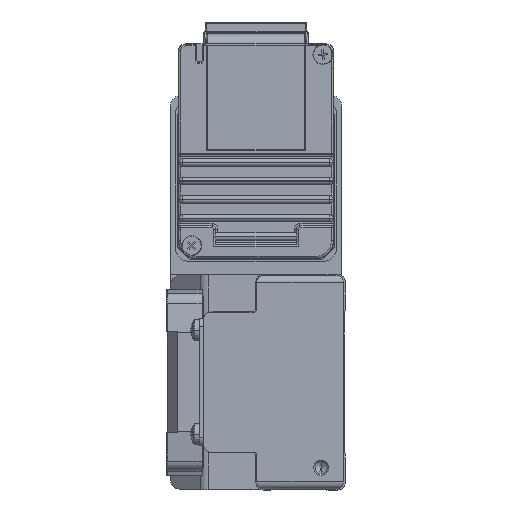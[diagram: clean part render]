
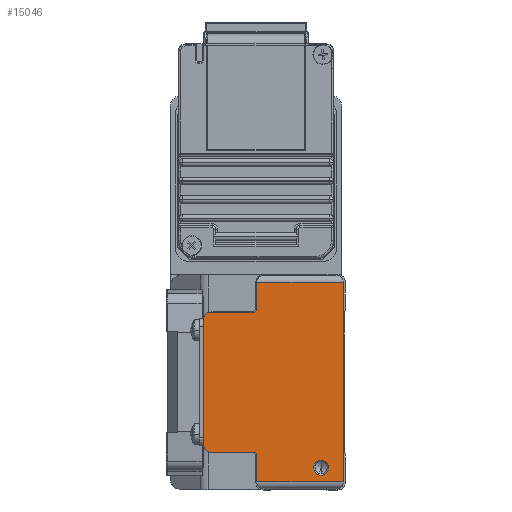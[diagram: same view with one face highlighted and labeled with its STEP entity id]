
A CAD part, left-side view. The second image highlights one B-rep face of the part: STEP entity #15046.
In plain terms, the highlighted planar face has unit normal (-1, 0, 0) as drawn and (0, 0, 1) by its records, which use the part's own axes.
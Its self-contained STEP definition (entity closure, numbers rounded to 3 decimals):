
#479 = CARTESIAN_POINT ( 'NONE',  ( 26.8, 23.8, 820. ) ) ;
#572 = PLANE ( 'NONE',  #1378 ) ;
#880 = VERTEX_POINT ( 'NONE', #26918 ) ;
#899 = VERTEX_POINT ( 'NONE', #5047 ) ;
#975 = LINE ( 'NONE', #29095, #3034 ) ;
#1378 = AXIS2_PLACEMENT_3D ( 'NONE', #42898, #14664, #11190 ) ;
#1431 = CARTESIAN_POINT ( 'NONE',  ( -26.8, 23.8, 820. ) ) ;
#1488 = EDGE_CURVE ( 'NONE', #34833, #9883, #6722, .T. ) ;
#1514 = CARTESIAN_POINT ( 'NONE',  ( 19.8, 24.8, 820. ) ) ;
#2152 = CARTESIAN_POINT ( 'NONE',  ( 26.8, 23.8, 820. ) ) ;
#2526 = ORIENTED_EDGE ( 'NONE', *, *, #42933, .T. ) ;
#2690 = ORIENTED_EDGE ( 'NONE', *, *, #22143, .T. ) ;
#2776 = CARTESIAN_POINT ( 'NONE',  ( 17.3, 36.5, 820. ) ) ;
#3034 = VECTOR ( 'NONE', #35863, 1000. ) ;
#3552 = DIRECTION ( 'NONE',  ( 0., -1., 0. ) ) ;
#3651 = VECTOR ( 'NONE', #26562, 1000. ) ;
#3926 = CARTESIAN_POINT ( 'NONE',  ( -19.8, 24.8, 820. ) ) ;
#5047 = CARTESIAN_POINT ( 'NONE',  ( 17.3, 38., 820. ) ) ;
#5266 = AXIS2_PLACEMENT_3D ( 'NONE', #11368, #42865, #39371 ) ;
#5529 = ORIENTED_EDGE ( 'NONE', *, *, #1488, .T. ) ;
#6644 = CARTESIAN_POINT ( 'NONE',  ( 19.8, 23.8, 820. ) ) ;
#6722 = CIRCLE ( 'NONE', #5266, 2. ) ;
#6762 = ORIENTED_EDGE ( 'NONE', *, *, #26782, .T. ) ;
#8785 = VERTEX_POINT ( 'NONE', #42233 ) ;
#9000 = EDGE_CURVE ( 'NONE', #13240, #19870, #36776, .T. ) ;
#9042 = LINE ( 'NONE', #2152, #3651 ) ;
#9686 = CARTESIAN_POINT ( 'NONE',  ( -23., 6.5, 820. ) ) ;
#9883 = VERTEX_POINT ( 'NONE', #19560 ) ;
#10829 = ORIENTED_EDGE ( 'NONE', *, *, #30544, .T. ) ;
#11190 = DIRECTION ( 'NONE',  ( 1., 0., 0. ) ) ;
#11368 = CARTESIAN_POINT ( 'NONE',  ( -23., 6.5, 820. ) ) ;
#11914 = DIRECTION ( 'NONE',  ( 0., 0., 1. ) ) ;
#12047 = ORIENTED_EDGE ( 'NONE', *, *, #27651, .T. ) ;
#12619 = LINE ( 'NONE', #19534, #38844 ) ;
#13240 = VERTEX_POINT ( 'NONE', #23935 ) ;
#13964 = FACE_OUTER_BOUND ( 'NONE', #35412, .T. ) ;
#14278 = CARTESIAN_POINT ( 'NONE',  ( -17.3, 38., 820. ) ) ;
#14366 = ORIENTED_EDGE ( 'NONE', *, *, #14828, .F. ) ;
#14450 = CARTESIAN_POINT ( 'NONE',  ( -18.8, 24.8, 820. ) ) ;
#14664 = DIRECTION ( 'NONE',  ( 0., 0., 1. ) ) ;
#14828 = EDGE_CURVE ( 'NONE', #35428, #23759, #45328, .T. ) ;
#15046 = ADVANCED_FACE ( 'NONE', ( #42674, #13964 ), #572, .T. ) ;
#15732 = DIRECTION ( 'NONE',  ( 0., 0., -1. ) ) ;
#15902 = LINE ( 'NONE', #26925, #36346 ) ;
#16038 = AXIS2_PLACEMENT_3D ( 'NONE', #9686, #15732, #37040 ) ;
#17294 = CARTESIAN_POINT ( 'NONE',  ( 26.8, 24., 820. ) ) ;
#18010 = DIRECTION ( 'NONE',  ( 0., 0., 1. ) ) ;
#18396 = VERTEX_POINT ( 'NONE', #25651 ) ;
#19194 = CARTESIAN_POINT ( 'NONE',  ( -18.8, 36.5, 820. ) ) ;
#19339 = VERTEX_POINT ( 'NONE', #6644 ) ;
#19534 = CARTESIAN_POINT ( 'NONE',  ( 17.3, 38., 820. ) ) ;
#19537 = VERTEX_POINT ( 'NONE', #14278 ) ;
#19560 = CARTESIAN_POINT ( 'NONE',  ( -25., 6.5, 820. ) ) ;
#19585 = AXIS2_PLACEMENT_3D ( 'NONE', #23188, #30552, #41050 ) ;
#19741 = CARTESIAN_POINT ( 'NONE',  ( 18.8, 24.8, 820. ) ) ;
#19870 = VERTEX_POINT ( 'NONE', #14450 ) ;
#20088 = CARTESIAN_POINT ( 'NONE',  ( -21., 6.5, 820. ) ) ;
#20140 = VECTOR ( 'NONE', #29761, 1000. ) ;
#21753 = EDGE_CURVE ( 'NONE', #35428, #19339, #9042, .T. ) ;
#22143 = EDGE_CURVE ( 'NONE', #899, #19537, #12619, .T. ) ;
#22296 = ORIENTED_EDGE ( 'NONE', *, *, #42635, .T. ) ;
#23132 = CIRCLE ( 'NONE', #24592, 1.5 ) ;
#23188 = CARTESIAN_POINT ( 'NONE',  ( -17.3, 36.5, 820. ) ) ;
#23759 = VERTEX_POINT ( 'NONE', #33051 ) ;
#23935 = CARTESIAN_POINT ( 'NONE',  ( -18.8, 36.5, 820. ) ) ;
#24420 = DIRECTION ( 'NONE',  ( 0., -1., 0. ) ) ;
#24592 = AXIS2_PLACEMENT_3D ( 'NONE', #2776, #35759, #35995 ) ;
#24809 = AXIS2_PLACEMENT_3D ( 'NONE', #1514, #11914, #25936 ) ;
#25651 = CARTESIAN_POINT ( 'NONE',  ( -26.8, 0.5, 820. ) ) ;
#25936 = DIRECTION ( 'NONE',  ( 1., 0., 0. ) ) ;
#26562 = DIRECTION ( 'NONE',  ( -1., 0., 0. ) ) ;
#26718 = DIRECTION ( 'NONE',  ( 0., 1., 0. ) ) ;
#26782 = EDGE_CURVE ( 'NONE', #880, #36842, #15902, .T. ) ;
#26909 = DIRECTION ( 'NONE',  ( 1., 0., 0. ) ) ;
#26918 = CARTESIAN_POINT ( 'NONE',  ( -19.8, 23.8, 820. ) ) ;
#26925 = CARTESIAN_POINT ( 'NONE',  ( -19.8, 23.8, 820. ) ) ;
#27630 = LINE ( 'NONE', #34675, #45503 ) ;
#27651 = EDGE_CURVE ( 'NONE', #8785, #899, #23132, .T. ) ;
#28188 = ORIENTED_EDGE ( 'NONE', *, *, #21753, .T. ) ;
#29095 = CARTESIAN_POINT ( 'NONE',  ( -26.8, 0.5, 820. ) ) ;
#29761 = DIRECTION ( 'NONE',  ( 0., -1., 0. ) ) ;
#30544 = EDGE_CURVE ( 'NONE', #9883, #34833, #41188, .T. ) ;
#30552 = DIRECTION ( 'NONE',  ( 0., 0., 1. ) ) ;
#32468 = ORIENTED_EDGE ( 'NONE', *, *, #36828, .T. ) ;
#33051 = CARTESIAN_POINT ( 'NONE',  ( 26.8, 0.5, 820. ) ) ;
#33086 = VECTOR ( 'NONE', #3552, 1000. ) ;
#33711 = CIRCLE ( 'NONE', #24809, 1. ) ;
#34556 = AXIS2_PLACEMENT_3D ( 'NONE', #3926, #18010, #26909 ) ;
#34675 = CARTESIAN_POINT ( 'NONE',  ( 18.8, 24.8, 820. ) ) ;
#34833 = VERTEX_POINT ( 'NONE', #20088 ) ;
#35267 = EDGE_CURVE ( 'NONE', #36842, #18396, #42671, .T. ) ;
#35412 = EDGE_LOOP ( 'NONE', ( #43368, #40808, #6762, #41863, #32468, #14366, #28188, #37075, #2526, #12047, #2690, #22296 ) ) ;
#35428 = VERTEX_POINT ( 'NONE', #479 ) ;
#35759 = DIRECTION ( 'NONE',  ( 0., 0., 1. ) ) ;
#35863 = DIRECTION ( 'NONE',  ( 1., 0., 0. ) ) ;
#35995 = DIRECTION ( 'NONE',  ( 1., 0., 0. ) ) ;
#36346 = VECTOR ( 'NONE', #44627, 1000. ) ;
#36776 = LINE ( 'NONE', #19194, #20140 ) ;
#36828 = EDGE_CURVE ( 'NONE', #18396, #23759, #975, .T. ) ;
#36842 = VERTEX_POINT ( 'NONE', #1431 ) ;
#37040 = DIRECTION ( 'NONE',  ( -1., 0., 0. ) ) ;
#37075 = ORIENTED_EDGE ( 'NONE', *, *, #43314, .F. ) ;
#38844 = VECTOR ( 'NONE', #44549, 1000. ) ;
#38940 = CARTESIAN_POINT ( 'NONE',  ( -26.8, 24., 820. ) ) ;
#39371 = DIRECTION ( 'NONE',  ( -1., 0., 0. ) ) ;
#40808 = ORIENTED_EDGE ( 'NONE', *, *, #43714, .F. ) ;
#41050 = DIRECTION ( 'NONE',  ( 1., 0., 0. ) ) ;
#41188 = CIRCLE ( 'NONE', #16038, 2. ) ;
#41863 = ORIENTED_EDGE ( 'NONE', *, *, #35267, .T. ) ;
#41953 = VECTOR ( 'NONE', #24420, 1000. ) ;
#42233 = CARTESIAN_POINT ( 'NONE',  ( 18.8, 36.5, 820. ) ) ;
#42589 = VERTEX_POINT ( 'NONE', #19741 ) ;
#42635 = EDGE_CURVE ( 'NONE', #19537, #13240, #43258, .T. ) ;
#42671 = LINE ( 'NONE', #38940, #33086 ) ;
#42674 = FACE_BOUND ( 'NONE', #44145, .T. ) ;
#42865 = DIRECTION ( 'NONE',  ( 0., 0., -1. ) ) ;
#42898 = CARTESIAN_POINT ( 'NONE',  ( -26.8, 21.8, 820. ) ) ;
#42933 = EDGE_CURVE ( 'NONE', #42589, #8785, #27630, .T. ) ;
#43258 = CIRCLE ( 'NONE', #19585, 1.5 ) ;
#43314 = EDGE_CURVE ( 'NONE', #42589, #19339, #33711, .T. ) ;
#43368 = ORIENTED_EDGE ( 'NONE', *, *, #9000, .T. ) ;
#43714 = EDGE_CURVE ( 'NONE', #880, #19870, #44155, .T. ) ;
#44145 = EDGE_LOOP ( 'NONE', ( #10829, #5529 ) ) ;
#44155 = CIRCLE ( 'NONE', #34556, 1. ) ;
#44549 = DIRECTION ( 'NONE',  ( -1., 0., 0. ) ) ;
#44627 = DIRECTION ( 'NONE',  ( -1., 0., 0. ) ) ;
#45328 = LINE ( 'NONE', #17294, #41953 ) ;
#45503 = VECTOR ( 'NONE', #26718, 1000. ) ;
